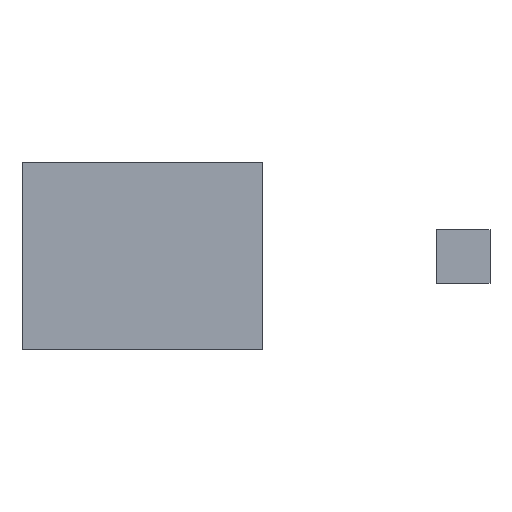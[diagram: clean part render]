
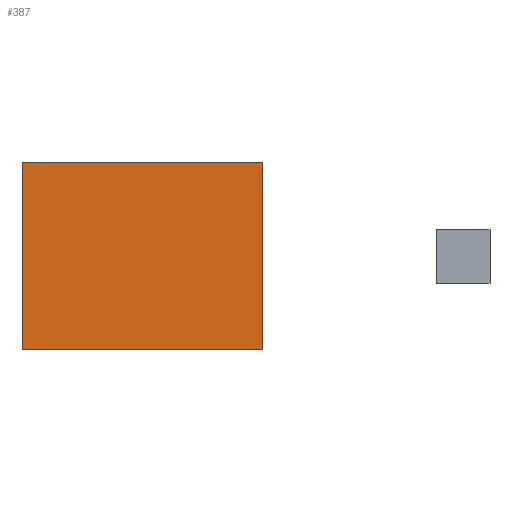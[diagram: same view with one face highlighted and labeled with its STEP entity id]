
A CAD part, top view. The second image highlights one B-rep face of the part: STEP entity #387.
In plain terms, the highlighted planar face has unit normal (0, 0, 1).
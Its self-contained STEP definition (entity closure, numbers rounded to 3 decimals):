
#73 = VERTEX_POINT('',#74);
#74 = CARTESIAN_POINT('',(-225.,-175.,9.));
#81 = PLANE('',#82);
#82 = AXIS2_PLACEMENT_3D('',#83,#84,#85);
#83 = CARTESIAN_POINT('',(-225.,-175.,-9.));
#84 = DIRECTION('',(1.,0.,0.));
#85 = DIRECTION('',(0.,0.,1.));
#93 = PLANE('',#94);
#94 = AXIS2_PLACEMENT_3D('',#95,#96,#97);
#95 = CARTESIAN_POINT('',(-225.,-175.,-9.));
#96 = DIRECTION('',(0.,1.,0.));
#97 = DIRECTION('',(0.,0.,1.));
#134 = VERTEX_POINT('',#135);
#135 = CARTESIAN_POINT('',(-225.,175.,9.));
#149 = PLANE('',#150);
#150 = AXIS2_PLACEMENT_3D('',#151,#152,#153);
#151 = CARTESIAN_POINT('',(-225.,175.,-9.));
#152 = DIRECTION('',(0.,1.,0.));
#153 = DIRECTION('',(0.,0.,1.));
#161 = EDGE_CURVE('',#73,#134,#162,.T.);
#162 = SURFACE_CURVE('',#163,(#167,#174),.PCURVE_S1.);
#163 = LINE('',#164,#165);
#164 = CARTESIAN_POINT('',(-225.,-175.,9.));
#165 = VECTOR('',#166,1.);
#166 = DIRECTION('',(0.,1.,0.));
#167 = PCURVE('',#81,#168);
#168 = DEFINITIONAL_REPRESENTATION('',(#169),#173);
#169 = LINE('',#170,#171);
#170 = CARTESIAN_POINT('',(18.,0.));
#171 = VECTOR('',#172,1.);
#172 = DIRECTION('',(0.,-1.));
#173 = ( GEOMETRIC_REPRESENTATION_CONTEXT(2) 
PARAMETRIC_REPRESENTATION_CONTEXT() REPRESENTATION_CONTEXT('2D SPACE',''
  ) );
#174 = PCURVE('',#175,#180);
#175 = PLANE('',#176);
#176 = AXIS2_PLACEMENT_3D('',#177,#178,#179);
#177 = CARTESIAN_POINT('',(-225.,-175.,9.));
#178 = DIRECTION('',(0.,0.,1.));
#179 = DIRECTION('',(1.,0.,0.));
#180 = DEFINITIONAL_REPRESENTATION('',(#181),#185);
#181 = LINE('',#182,#183);
#182 = CARTESIAN_POINT('',(0.,0.));
#183 = VECTOR('',#184,1.);
#184 = DIRECTION('',(0.,1.));
#185 = ( GEOMETRIC_REPRESENTATION_CONTEXT(2) 
PARAMETRIC_REPRESENTATION_CONTEXT() REPRESENTATION_CONTEXT('2D SPACE',''
  ) );
#193 = VERTEX_POINT('',#194);
#194 = CARTESIAN_POINT('',(225.,-175.,9.));
#201 = PLANE('',#202);
#202 = AXIS2_PLACEMENT_3D('',#203,#204,#205);
#203 = CARTESIAN_POINT('',(225.,-175.,-9.));
#204 = DIRECTION('',(1.,0.,0.));
#205 = DIRECTION('',(0.,0.,1.));
#244 = VERTEX_POINT('',#245);
#245 = CARTESIAN_POINT('',(225.,175.,9.));
#266 = EDGE_CURVE('',#193,#244,#267,.T.);
#267 = SURFACE_CURVE('',#268,(#272,#279),.PCURVE_S1.);
#268 = LINE('',#269,#270);
#269 = CARTESIAN_POINT('',(225.,-175.,9.));
#270 = VECTOR('',#271,1.);
#271 = DIRECTION('',(0.,1.,0.));
#272 = PCURVE('',#201,#273);
#273 = DEFINITIONAL_REPRESENTATION('',(#274),#278);
#274 = LINE('',#275,#276);
#275 = CARTESIAN_POINT('',(18.,0.));
#276 = VECTOR('',#277,1.);
#277 = DIRECTION('',(0.,-1.));
#278 = ( GEOMETRIC_REPRESENTATION_CONTEXT(2) 
PARAMETRIC_REPRESENTATION_CONTEXT() REPRESENTATION_CONTEXT('2D SPACE',''
  ) );
#279 = PCURVE('',#175,#280);
#280 = DEFINITIONAL_REPRESENTATION('',(#281),#285);
#281 = LINE('',#282,#283);
#282 = CARTESIAN_POINT('',(450.,0.));
#283 = VECTOR('',#284,1.);
#284 = DIRECTION('',(0.,1.));
#285 = ( GEOMETRIC_REPRESENTATION_CONTEXT(2) 
PARAMETRIC_REPRESENTATION_CONTEXT() REPRESENTATION_CONTEXT('2D SPACE',''
  ) );
#312 = EDGE_CURVE('',#73,#193,#313,.T.);
#313 = SURFACE_CURVE('',#314,(#318,#325),.PCURVE_S1.);
#314 = LINE('',#315,#316);
#315 = CARTESIAN_POINT('',(-225.,-175.,9.));
#316 = VECTOR('',#317,1.);
#317 = DIRECTION('',(1.,0.,0.));
#318 = PCURVE('',#93,#319);
#319 = DEFINITIONAL_REPRESENTATION('',(#320),#324);
#320 = LINE('',#321,#322);
#321 = CARTESIAN_POINT('',(18.,0.));
#322 = VECTOR('',#323,1.);
#323 = DIRECTION('',(0.,1.));
#324 = ( GEOMETRIC_REPRESENTATION_CONTEXT(2) 
PARAMETRIC_REPRESENTATION_CONTEXT() REPRESENTATION_CONTEXT('2D SPACE',''
  ) );
#325 = PCURVE('',#175,#326);
#326 = DEFINITIONAL_REPRESENTATION('',(#327),#331);
#327 = LINE('',#328,#329);
#328 = CARTESIAN_POINT('',(0.,0.));
#329 = VECTOR('',#330,1.);
#330 = DIRECTION('',(1.,0.));
#331 = ( GEOMETRIC_REPRESENTATION_CONTEXT(2) 
PARAMETRIC_REPRESENTATION_CONTEXT() REPRESENTATION_CONTEXT('2D SPACE',''
  ) );
#359 = EDGE_CURVE('',#134,#244,#360,.T.);
#360 = SURFACE_CURVE('',#361,(#365,#372),.PCURVE_S1.);
#361 = LINE('',#362,#363);
#362 = CARTESIAN_POINT('',(-225.,175.,9.));
#363 = VECTOR('',#364,1.);
#364 = DIRECTION('',(1.,0.,0.));
#365 = PCURVE('',#149,#366);
#366 = DEFINITIONAL_REPRESENTATION('',(#367),#371);
#367 = LINE('',#368,#369);
#368 = CARTESIAN_POINT('',(18.,0.));
#369 = VECTOR('',#370,1.);
#370 = DIRECTION('',(0.,1.));
#371 = ( GEOMETRIC_REPRESENTATION_CONTEXT(2) 
PARAMETRIC_REPRESENTATION_CONTEXT() REPRESENTATION_CONTEXT('2D SPACE',''
  ) );
#372 = PCURVE('',#175,#373);
#373 = DEFINITIONAL_REPRESENTATION('',(#374),#378);
#374 = LINE('',#375,#376);
#375 = CARTESIAN_POINT('',(0.,350.));
#376 = VECTOR('',#377,1.);
#377 = DIRECTION('',(1.,0.));
#378 = ( GEOMETRIC_REPRESENTATION_CONTEXT(2) 
PARAMETRIC_REPRESENTATION_CONTEXT() REPRESENTATION_CONTEXT('2D SPACE',''
  ) );
#387 = ADVANCED_FACE('',(#388),#175,.T.);
#388 = FACE_BOUND('',#389,.T.);
#389 = EDGE_LOOP('',(#390,#391,#392,#393));
#390 = ORIENTED_EDGE('',*,*,#161,.F.);
#391 = ORIENTED_EDGE('',*,*,#312,.T.);
#392 = ORIENTED_EDGE('',*,*,#266,.T.);
#393 = ORIENTED_EDGE('',*,*,#359,.F.);
